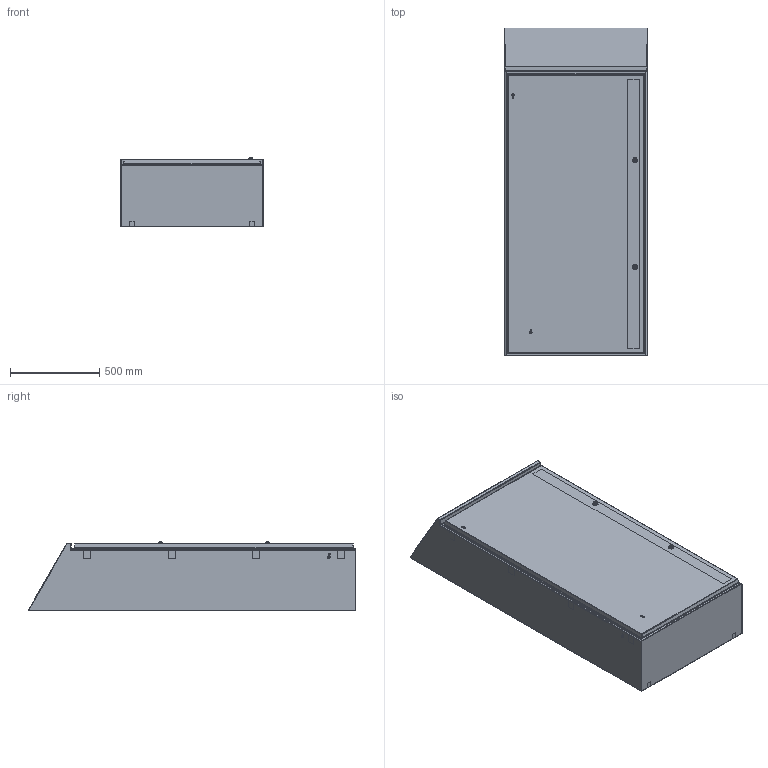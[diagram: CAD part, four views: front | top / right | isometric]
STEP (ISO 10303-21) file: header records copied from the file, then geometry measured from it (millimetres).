
FILE_DESCRIPTION (( 'STEP AP203' ), '1' );
FILE_NAME ('SITO-QSH816.STEP', '2021-05-06T09:13:08', ( '' ), ( '' ), 'SwSTEP 2.0', 'SolidWorks 2020', '' );
FILE_SCHEMA (( 'CONFIG_CONTROL_DESIGN' ));
Length unit declared in the file: millimetre
Products named in the file (22): CEPOM(CORPO); DMFD08Z; SITO-FASCIAME QSH816_QSH45; ADMT_ADMT; SG460-32-HD_Posizione 3; INGOMBRO_LEVE; SVPIQSH816A; RP0612I; CERNIERA; DM06I; Scarpetta H.32 SG460-SD_1_Configurazione 2; SITO-QSH816; 1000-S1491; SG460-32-HD_1_Posizione 4; PIQSH816A; GHIERA SG CASSETTE; SITO-PORTA QSH816; Scarpetta H.32 SG460-SD_Configurazione 2; SITO-ASSIEME PORTA QSH816; PRM615TL316
Assembly tree (40 placements, depth 4):
  SITO-QSH816
    SITO-FASCIAME QSH816_QSH45
    PIQSH816A
      SVPIQSH816A
    SITO-ASSIEME PORTA QSH816
      SITO-PORTA QSH816
      PRM615TL316  x2
      ADMT_ADMT  x2
      RP0612I  x2
      DM06I  x2
      SG460-32-HD_Posizione 3
        1000-S1491
        GHIERA SG CASSETTE
        Scarpetta H.32 SG460-SD_Configurazione 2
        CEPOM(CORPO)
      SG460-32-HD_Posizione 3
        1000-S1491
        GHIERA SG CASSETTE
        Scarpetta H.32 SG460-SD_Configurazione 2
        CEPOM(CORPO)
      SG460-32-HD_1_Posizione 4
        Scarpetta H.32 SG460-SD_1_Configurazione 2
        CEPOM(CORPO)
      SG460-32-HD_1_Posizione 4
        Scarpetta H.32 SG460-SD_1_Configurazione 2
        CEPOM(CORPO)
    DMFD08Z  x4
    ADMT_ADMT  x2
    INGOMBRO_LEVE
    CERNIERA  x4
Bounding box: 800 x 1841 x 392.04 mm (x, y, z)
Volume: 14589876.8 mm3; surface area: 12920165 mm2
Topology: 42 solids, 42 shells, 2000 faces, 4931 edges, 3063 vertices
Faces by surface type: plane 1046, cylinder 642, bspline 134, cone 132, sphere 28, torus 18
Entity records: 39156 total; most frequent: CARTESIAN_POINT 9893, DIRECTION 5542, ORIENTED_EDGE 5510, EDGE_CURVE 2755, AXIS2_PLACEMENT_3D 1931, VERTEX_POINT 1710, VECTOR 1680, LINE 1680
